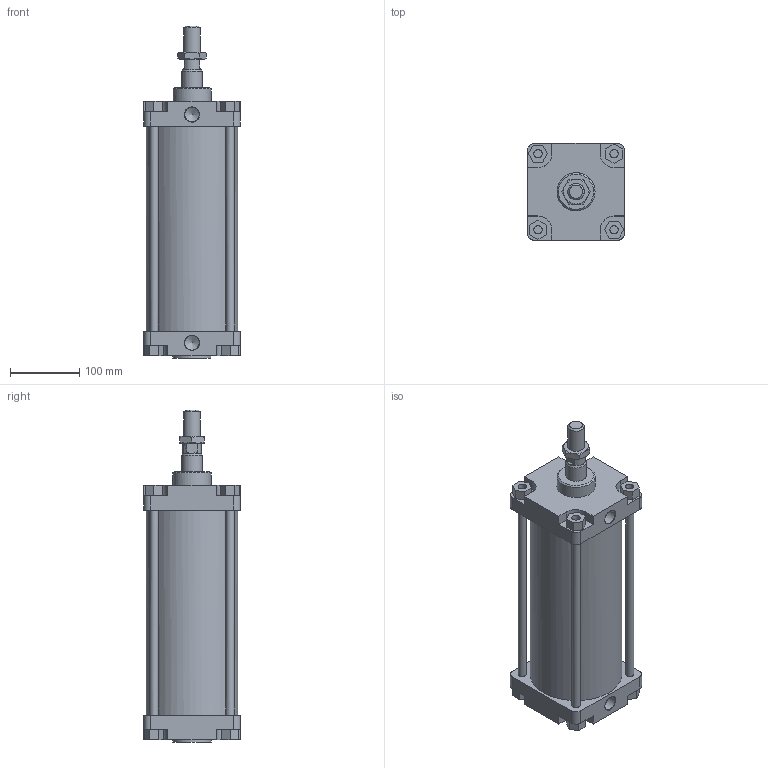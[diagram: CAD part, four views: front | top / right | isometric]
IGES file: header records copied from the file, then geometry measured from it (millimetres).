
Global section: file name: 1304_125_0200_01A; native system: Autodesk Inventor 2014; preprocessor: unknown; author: A. Manieri; date: 20161124.142427; units: millimetre
Bounding box: 140 x 140 x 480 mm (x, y, z)
Volume: 3332064.9 mm3; surface area: 531013.6 mm2
Topology: 9 solids, 9 shells, 175 faces, 440 edges, 295 vertices
Faces by surface type: bspline 175
